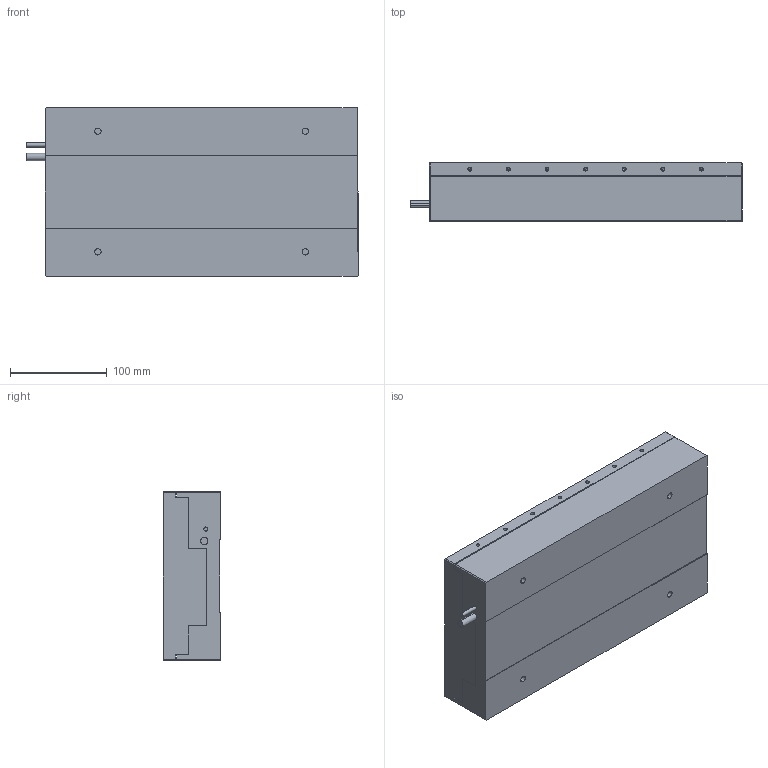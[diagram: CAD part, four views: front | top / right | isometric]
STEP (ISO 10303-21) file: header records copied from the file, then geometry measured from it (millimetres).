
FILE_DESCRIPTION (( 'STEP AP203' ), '1' );
FILE_NAME ('NPS-L-CB6-10x.STEP', '2019-09-11T06:16:27', ( '' ), ( '' ), 'SwSTEP 2.0', 'SolidWorks 2015', '' );
FILE_SCHEMA (( 'CONFIG_CONTROL_DESIGN' ));
Length unit declared in the file: millimetre
Products named in the file (3): NPS-L-CB6-10x_固定部; NPS-L-CB6-10x_移動部; NPS-L-CB6-10x
Assembly tree (2 placements, depth 2):
  NPS-L-CB6-10x
    NPS-L-CB6-10x_固定部
    NPS-L-CB6-10x_移動部
Bounding box: 344 x 60 x 175 mm (x, y, z)
Volume: 3358262.8 mm3; surface area: 337003.2 mm2
Topology: 2 solids, 2 shells, 244 faces, 556 edges, 344 vertices
Faces by surface type: cylinder 128, plane 84, cone 32
Entity records: 7017 total; most frequent: DIRECTION 1278, CARTESIAN_POINT 1117, ORIENTED_EDGE 1048, EDGE_CURVE 524, AXIS2_PLACEMENT_3D 505, VERTEX_POINT 344, EDGE_LOOP 312, LINE 268
